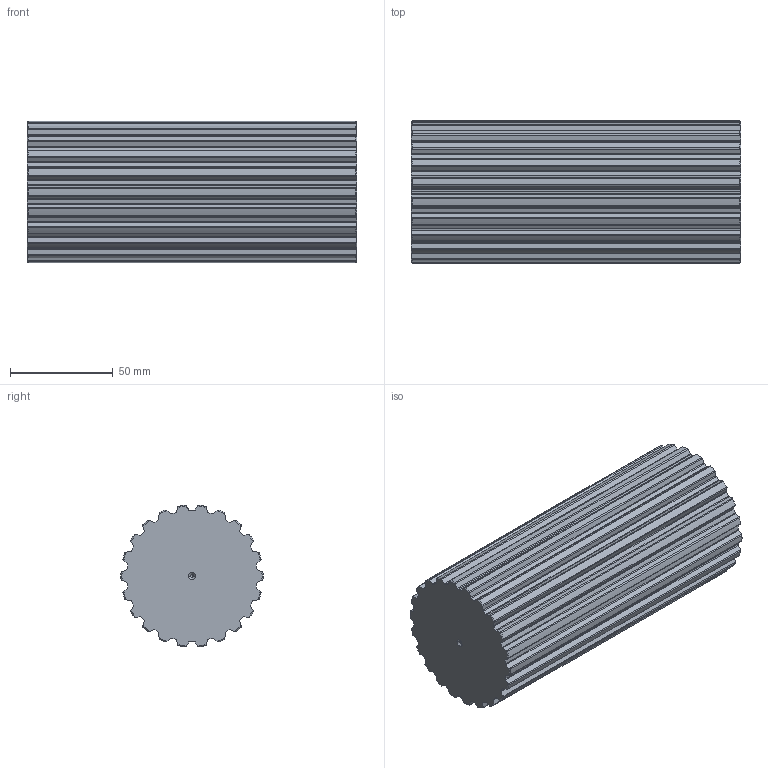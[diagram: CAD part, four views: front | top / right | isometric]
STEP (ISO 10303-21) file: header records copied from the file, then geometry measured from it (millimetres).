
FILE_DESCRIPTION(('STEP AP203'),'1');
FILE_NAME('bart_22.stp','2022-04-21T08:09:07',('TraceParts'),('TraceParts S.A.'),'Spatial InterOp 3D',' ',' ');
FILE_SCHEMA(('CONFIG_CONTROL_DESIGN'));
Length unit declared in the file: millimetre
Products named in the file (1): 1
Bounding box: 160 x 69.02 x 68.7 mm (x, y, z)
Volume: 555728 mm3; surface area: 50803.9 mm2
Topology: 1 solids, 1 shells, 240 faces, 706 edges, 466 vertices
Faces by surface type: cylinder 138, cone 56, plane 46
Entity records: 8418 total; most frequent: CARTESIAN_POINT 2201, ORIENTED_EDGE 1404, DIRECTION 1252, EDGE_CURVE 702, AXIS2_PLACEMENT_3D 485, VERTEX_POINT 466, LINE 282, VECTOR 282
